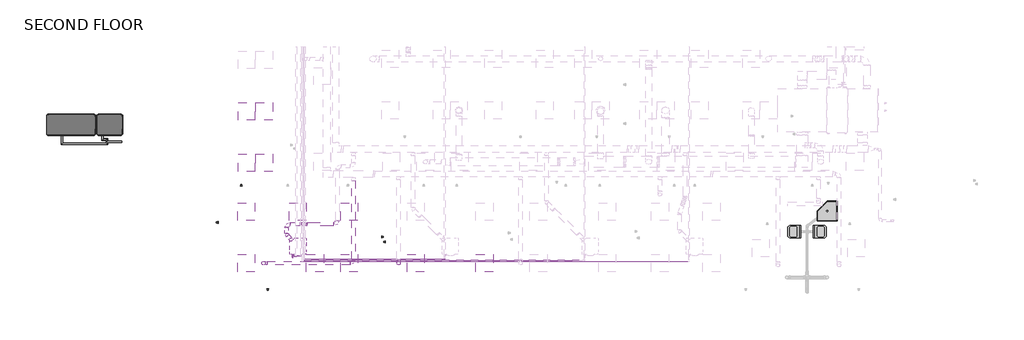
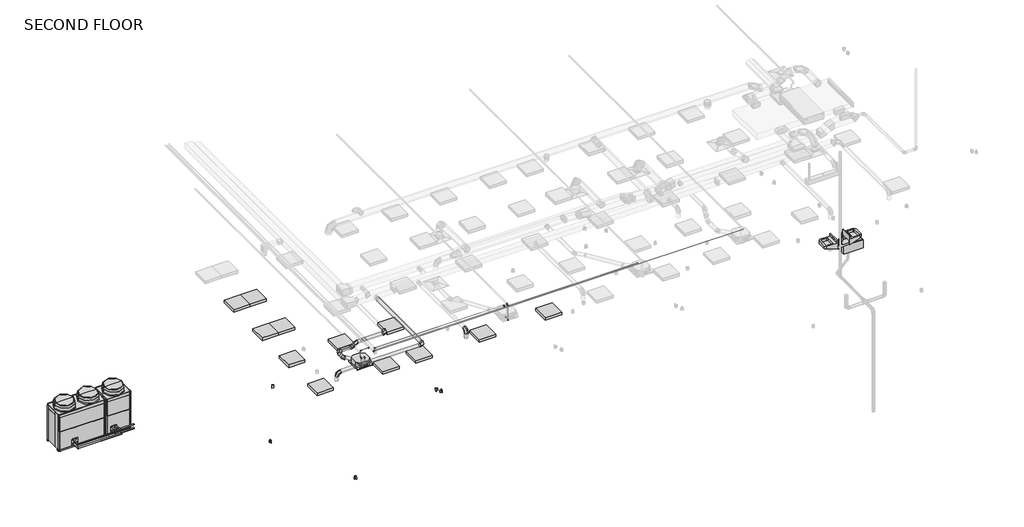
# One storey, part 1 of 12: 16 pipe fittings, 15 pipe segments, 12 light fixtures, 9 duct segments, 8 duct fittings, 7 proxies, 3 flow terminals.
"""IFC4 building model written with IfcOpenShell, lengths in millimetres."""

from ifc_helpers import new_model, si_unit, point, frame, frame_2d, origin, place, context, project, spatial, circle_curve, trimmed, segment, composite_curve, outline, extrude, transform, mapped, element, save
from components import mechanical_equipment_2d84379e, mechanical_equipment_f1262ded, mechanical_equipment_7c6ddfd4, mechanical_equipment_79fc2163, duplex_receptacle_countertop_10251bba, round_elbow_1_d_c80420c1, round_elbow_1_d_e3dc691b, flow_terminal_3ae34a69, flow_terminal_3fd0b982, troffer_corner_insert_2x2_3lamp_e67c7f8f, elbow_generic_standard_c06ac706, elbow_generic_standard_a088f956

model = new_model("IFC4")

# Units and contexts
model_context = context("Model", 3, world=origin())
ifc_project = project(units=[si_unit("LENGTHUNIT", "METRE", prefix="MILLI")], contexts=[model_context])

# Site, building, storey
site = spatial("IfcSite", under=ifc_project)
building = spatial("IfcBuilding", under=site)
storey = spatial("IfcBuildingStorey", under=building, Name="SECOND FLOOR", Elevation=34544.0)

# Proxies
placement = place(None, origin())
mechanical_equipment_shape = mechanical_equipment_2d84379e(model_context)
element("IfcBuildingElementProxy", 1, Name="PLFY-P-NCMU-E_4-way_24x24 : PLFY-P12NCMU-E", ObjectType="PLFY-P-NCMU-E_4-way_24x24 : PLFY-P12NCMU-E", at=placement, inside=storey, context=model_context, shape_type="MappedRepresentation", body=[
    mapped(mechanical_equipment_shape, transform((-7369.1729607, -5508.0657082, 37287.2), x_axis=(-1.0, 0.0, 0.0), y_axis=(0.0, 1.0, 0.0), z_axis=(0.0, 0.0, -1.0))),
])
mechanical_equipment_2_shape = mechanical_equipment_f1262ded(model_context)
mechanical_equipment_3_shape = mechanical_equipment_7c6ddfd4(model_context)
mechanical_equipment_4_shape = mechanical_equipment_79fc2163(model_context)
element("IfcBuildingElementProxy", 2, Name="PURY-P168-288_YSJMU_Heat_Recovery_460V : PURY-P192YSJMU-A(-BS)_460V", ObjectType="PURY-P168-288_YSJMU_Heat_Recovery_460V : PURY-P192YSJMU-A(-BS)_460V", at=placement, inside=storey, context=model_context, shape_type="MappedRepresentation", body=[
    mapped(mechanical_equipment_2_shape, transform((-15542.2584607, -1258.9304995, 34544.0), x_axis=(1.0, 0.0, 0.0), y_axis=(0.0, 1.0, 0.0), z_axis=(0.0, 0.0, 1.0))),
    mapped(mechanical_equipment_3_shape, transform((-15542.2584607, -1258.9304995, 34544.0), x_axis=(1.0, 0.0, 0.0), y_axis=(0.0, 1.0, 0.0), z_axis=(0.0, 0.0, 1.0))),
    mapped(mechanical_equipment_4_shape, transform((-15542.2584607, -1258.9304995, 34544.0), x_axis=(1.0, 0.0, 0.0), y_axis=(0.0, 1.0, 0.0), z_axis=(0.0, 0.0, 1.0))),
])
duplex_receptacle_countertop_shape = duplex_receptacle_countertop_10251bba(model_context)
element("IfcBuildingElementProxy", 3, Name="Duplex Receptacle : Countertop", ObjectType="Duplex Receptacle : Countertop", at=placement, inside=storey, context=model_context, shape_type="MappedRepresentation", body=[
    mapped(duplex_receptacle_countertop_shape, transform((-9384.920368, -3437.5304995, 35763.2), x_axis=(1.0, 0.0, 0.0), y_axis=(0.0, 0.0, 1.0), z_axis=(0.0, -1.0, 0.0))),
])
element("IfcBuildingElementProxy", 4, Name="Duplex Receptacle : Standard", ObjectType="Duplex Receptacle : Standard", at=placement, inside=storey, context=model_context, shape_type="MappedRepresentation", body=[
    mapped(duplex_receptacle_countertop_shape, transform((-10209.8454607, -4733.9575516, 34696.4), x_axis=(0.0, 1.0, 0.0), y_axis=(0.0, 0.0, 1.0), z_axis=(1.0, 0.0, 0.0))),
])
element("IfcBuildingElementProxy", 5, Name="Duplex Receptacle : Standard", ObjectType="Duplex Receptacle : Standard", at=placement, inside=storey, context=model_context, shape_type="MappedRepresentation", body=[
    mapped(duplex_receptacle_countertop_shape, transform((-4398.3829607, -5253.5079794, 35001.2), x_axis=(0.0, -1.0, 0.0), y_axis=(0.0, 0.0, 1.0), z_axis=(-1.0, 0.0, 0.0))),
])
element("IfcBuildingElementProxy", 6, Name="Duplex Receptacle : Standard", ObjectType="Duplex Receptacle : Standard", at=placement, inside=storey, context=model_context, shape_type="MappedRepresentation", body=[
    mapped(duplex_receptacle_countertop_shape, transform((-8437.8475796, -7095.1304995, 34086.8), x_axis=(-1.0, 0.0, 0.0), y_axis=(0.0, 0.0, 1.0), z_axis=(0.0, 1.0, 0.0))),
])
element("IfcBuildingElementProxy", 7, Name="Duplex Receptacle : Standard", ObjectType="Duplex Receptacle : Standard", at=placement, inside=storey, context=model_context, shape_type="MappedRepresentation", body=[
    mapped(duplex_receptacle_countertop_shape, transform((-4274.5579607, -5421.1008591, 35001.2), x_axis=(0.0, 1.0, 0.0), y_axis=(0.0, 0.0, 1.0), z_axis=(1.0, 0.0, 0.0))),
])

# Duct fittings
round_elbow_1_d_shape = round_elbow_1_d_c80420c1(model_context)
element("IfcDuctFitting", 8, ObjectType="Round Elbow : 1 D", at=placement, inside=storey, context=model_context, shape_type="MappedRepresentation", body=[
    mapped(round_elbow_1_d_shape, transform((-8593.9292107, -6180.7304995, 37693.6), x_axis=(0.0, 0.0, 1.0), y_axis=(1.0, 0.0, 0.0), z_axis=(0.0, 1.0, 0.0))),
])
element("IfcDuctFitting", 9, ObjectType="Round Elbow : 1 D", at=placement, inside=storey, context=model_context, shape_type="MappedRepresentation", body=[
    mapped(round_elbow_1_d_shape, transform((-5393.5292107, -6180.7304995, 37693.6), x_axis=(1.0, 0.0, 0.0), y_axis=(0.0, 1.0, 0.0), z_axis=(0.0, 0.0, 1.0))),
])
element("IfcDuctFitting", 10, ObjectType="Round Elbow : 1 D", at=placement, inside=storey, context=model_context, shape_type="MappedRepresentation", body=[
    mapped(round_elbow_1_d_shape, transform((-3798.8854607, -6180.7304995, 37693.6), x_axis=(0.0, 0.0, 1.0), y_axis=(0.0, 1.0, 0.0), z_axis=(-1.0, 0.0, 0.0))),
])
element("IfcDuctFitting", 11, ObjectType="Round Elbow : 1 D", at=placement, inside=storey, context=model_context, shape_type="MappedRepresentation", body=[
    mapped(round_elbow_1_d_shape, transform((-7773.6349734, -4791.2247368, 37381.259375), x_axis=(-1.0, 0.0, 0.0), y_axis=(0.0, -1.0, 0.0), z_axis=(0.0, 0.0, 1.0))),
])
element("IfcDuctFitting", 12, ObjectType="Round Elbow : 1 D", at=placement, inside=storey, context=model_context, shape_type="MappedRepresentation", body=[
    mapped(round_elbow_1_d_shape, transform((-5970.2349734, -4791.2247368, 37515.8), x_axis=(1.0, 0.0, 0.0), y_axis=(0.0, 1.0, 0.0), z_axis=(0.0, 0.0, 1.0))),
])
round_elbow_1_d_2_shape = round_elbow_1_d_e3dc691b(model_context)
element("IfcDuctFitting", 13, ObjectType="Round Elbow : 1 D", at=placement, inside=storey, context=model_context, shape_type="MappedRepresentation", body=[
    mapped(round_elbow_1_d_2_shape, transform((-7773.6349734, -5172.2247368, 37381.2593782), x_axis=(0.0, -1.0, 0.0), y_axis=(0.9999999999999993, 0.0, 3.563833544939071e-08), z_axis=(-3.563833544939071e-08, 0.0, 0.9999999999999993))),
])
element("IfcDuctFitting", 14, ObjectType="Round Elbow : 1 D", at=placement, inside=storey, context=model_context, shape_type="MappedRepresentation", body=[
    mapped(round_elbow_1_d_2_shape, transform((-7236.4646609, -4791.2247368, 37381.259375), x_axis=(1.0, 0.0, 0.0), y_axis=(0.0, 0.0, 1.0), z_axis=(0.0, -1.0, 0.0))),
])
element("IfcDuctFitting", 15, ObjectType="Round Elbow : 1 D", at=placement, inside=storey, context=model_context, shape_type="MappedRepresentation", body=[
    mapped(round_elbow_1_d_2_shape, transform((-7101.9240359, -4791.2247368, 37515.8), x_axis=(0.7071067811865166, 0.0, 0.7071067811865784), y_axis=(0.7071067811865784, 0.0, -0.7071067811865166), z_axis=(0.0, 1.0, 0.0))),
])

# Duct segments
element("IfcDuctSegment", 16, ObjectType="Taps / Short Radius", at=placement, inside=storey, context=model_context, shape_type="SweptSolid", body=[
    extrude(outline(composite_curve([segment(trimmed(circle_curve(frame_2d((-6180.7304995, 37693.6)), 63.5), [point((-6244.2304995, 37693.6))], [point((-6180.7304995, 37757.1))], False, "CARTESIAN"), True, "CONTINUOUS"), segment(trimmed(circle_curve(frame_2d((-6180.7304995, 37693.6)), 63.5), [point((-6180.7304995, 37757.1))], [point((-6117.2304995, 37693.6))], False, "CARTESIAN"), True, "CONTINUOUS"), segment(trimmed(circle_curve(frame_2d((-6180.7304995, 37693.6)), 63.5), [point((-6117.2304995, 37693.6))], [point((-6180.7304995, 37630.1))], False, "CARTESIAN"), True, "CONTINUOUS"), segment(trimmed(circle_curve(frame_2d((-6180.7304995, 37693.6)), 63.5), [point((-6180.7304995, 37630.1))], [point((-6244.2304995, 37693.6))], False, "CARTESIAN"), True, "CONTINUOUS")], self_intersect=False)), frame((-8466.9292107, 0.0, 0.0), z_axis=(1.0, 0.0, 0.0), x_axis=(0.0, 1.0, 0.0)), (0.0, 0.0, 1.0), 2946.4),
])
element("IfcDuctSegment", 17, ObjectType="Taps / Short Radius", at=placement, inside=storey, context=model_context, shape_type="SweptSolid", body=[
    extrude(outline(composite_curve([segment(trimmed(circle_curve(frame_2d((-8593.9292107, -6180.7304995)), 63.5), [point((-8593.9292107, -6244.2304995))], [point((-8657.4292107, -6180.7304995))], False, "CARTESIAN"), True, "CONTINUOUS"), segment(trimmed(circle_curve(frame_2d((-8593.9292107, -6180.7304995)), 63.5), [point((-8657.4292107, -6180.7304995))], [point((-8593.9292107, -6117.2304995))], False, "CARTESIAN"), True, "CONTINUOUS"), segment(trimmed(circle_curve(frame_2d((-8593.9292107, -6180.7304995)), 63.5), [point((-8593.9292107, -6117.2304995))], [point((-8530.4292107, -6180.7304995))], False, "CARTESIAN"), True, "CONTINUOUS"), segment(trimmed(circle_curve(frame_2d((-8593.9292107, -6180.7304995)), 63.5), [point((-8530.4292107, -6180.7304995))], [point((-8593.9292107, -6244.2304995))], False, "CARTESIAN"), True, "CONTINUOUS")], self_intersect=False)), frame((0.0, 0.0, 37388.8), z_axis=(0.0, 0.0, 1.0), x_axis=(1.0, 0.0, 0.0)), (0.0, 0.0, 1.0), 177.8),
])
element("IfcDuctSegment", 18, ObjectType="Taps / Short Radius", at=placement, inside=storey, context=model_context, shape_type="SweptSolid", body=[
    extrude(outline(composite_curve([segment(trimmed(circle_curve(frame_2d((37693.6, -5393.5292107)), 63.5), [point((37693.6, -5457.0292107))], [point((37630.1, -5393.5292107))], False, "CARTESIAN"), True, "CONTINUOUS"), segment(trimmed(circle_curve(frame_2d((37693.6, -5393.5292107)), 63.5), [point((37630.1, -5393.5292107))], [point((37693.6, -5330.0292107))], False, "CARTESIAN"), True, "CONTINUOUS"), segment(trimmed(circle_curve(frame_2d((37693.6, -5393.5292107)), 63.5), [point((37693.6, -5330.0292107))], [point((37757.1, -5393.5292107))], False, "CARTESIAN"), True, "CONTINUOUS"), segment(trimmed(circle_curve(frame_2d((37693.6, -5393.5292107)), 63.5), [point((37757.1, -5393.5292107))], [point((37693.6, -5457.0292107))], False, "CARTESIAN"), True, "CONTINUOUS")], self_intersect=False)), frame((0.0, -6053.7304995, 0.0), z_axis=(0.0, 1.0, 0.0), x_axis=(0.0, 0.0, 1.0)), (0.0, 0.0, 1.0), 2814.8598327),
])
element("IfcDuctSegment", 19, ObjectType="Taps / Short Radius", at=placement, inside=storey, context=model_context, shape_type="SweptSolid", body=[
    extrude(outline(composite_curve([segment(trimmed(circle_curve(frame_2d((-3798.8854607, -6180.7304995)), 63.5), [point((-3735.3854607, -6180.7304995))], [point((-3798.8854607, -6244.2304995))], False, "CARTESIAN"), True, "CONTINUOUS"), segment(trimmed(circle_curve(frame_2d((-3798.8854607, -6180.7304995)), 63.5), [point((-3798.8854607, -6244.2304995))], [point((-3862.3854607, -6180.7304995))], False, "CARTESIAN"), True, "CONTINUOUS"), segment(trimmed(circle_curve(frame_2d((-3798.8854607, -6180.7304995)), 63.5), [point((-3862.3854607, -6180.7304995))], [point((-3798.8854607, -6117.2304995))], False, "CARTESIAN"), True, "CONTINUOUS"), segment(trimmed(circle_curve(frame_2d((-3798.8854607, -6180.7304995)), 63.5), [point((-3798.8854607, -6117.2304995))], [point((-3735.3854607, -6180.7304995))], False, "CARTESIAN"), True, "CONTINUOUS")], self_intersect=False)), frame((0.0, 0.0, 37388.8), z_axis=(0.0, 0.0, 1.0), x_axis=(1.0, 0.0, 0.0)), (0.0, 0.0, 1.0), 177.8),
])
element("IfcDuctSegment", 20, ObjectType="Taps / Short Radius", at=placement, inside=storey, context=model_context, shape_type="SweptSolid", body=[
    extrude(outline(composite_curve([segment(trimmed(circle_curve(frame_2d((0.0, 63.5)), 63.5), [point((63.5, 63.5))], [point((0.0, 0.0))], False, "CARTESIAN"), True, "CONTINUOUS"), segment(trimmed(circle_curve(frame_2d((0.0, 63.5)), 63.5), [point((0.0, 0.0))], [point((-63.5, 63.5))], False, "CARTESIAN"), True, "CONTINUOUS"), segment(trimmed(circle_curve(frame_2d((0.0, 63.5)), 63.5), [point((-63.5, 63.5))], [point((0.0, 127.0))], False, "CARTESIAN"), True, "CONTINUOUS"), segment(trimmed(circle_curve(frame_2d((0.0, 63.5)), 63.5), [point((0.0, 127.0))], [point((63.5, 63.5))], False, "CARTESIAN"), True, "CONTINUOUS")], self_intersect=False)), frame((-7576.0693388, -5369.7903714, 37444.7593852), z_axis=(-0.7071067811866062, 0.707106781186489, 0.0), x_axis=(0.707106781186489, 0.7071067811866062, 0.0)), (0.0, 0.0, 1.0), 226.7948776),
])
element("IfcDuctSegment", 21, ObjectType="Taps / Short Radius", at=placement, inside=storey, context=model_context, shape_type="SweptSolid", body=[
    extrude(outline(composite_curve([segment(trimmed(circle_curve(frame_2d((37381.2593782, -7773.6349734)), 63.5), [point((37381.2593782, -7710.1349734))], [point((37444.7593782, -7773.6349734))], False, "CARTESIAN"), True, "CONTINUOUS"), segment(trimmed(circle_curve(frame_2d((37381.2593782, -7773.6349734)), 63.5), [point((37444.7593782, -7773.6349734))], [point((37381.2593782, -7837.1349734))], False, "CARTESIAN"), True, "CONTINUOUS"), segment(trimmed(circle_curve(frame_2d((37381.2593782, -7773.6349734)), 63.5), [point((37381.2593782, -7837.1349734))], [point((37317.7593782, -7773.6349734))], False, "CARTESIAN"), True, "CONTINUOUS"), segment(trimmed(circle_curve(frame_2d((37381.2593782, -7773.6349734)), 63.5), [point((37317.7593782, -7773.6349734))], [point((37381.2593782, -7710.1349734))], False, "CARTESIAN"), True, "CONTINUOUS")], self_intersect=False)), frame((0.0, -5119.6196143, 0.0), z_axis=(0.0, 1.0, 0.0), x_axis=(0.0, 0.0, 1.0)), (0.0, 0.0, 1.0), 201.3948776),
])
element("IfcDuctSegment", 22, ObjectType="Taps / Short Radius", at=placement, inside=storey, context=model_context, shape_type="SweptSolid", body=[
    extrude(outline(composite_curve([segment(trimmed(circle_curve(frame_2d((-4791.2247368, 37381.259375)), 63.5), [point((-4854.7247368, 37381.259375))], [point((-4791.2247368, 37444.759375))], False, "CARTESIAN"), True, "CONTINUOUS"), segment(trimmed(circle_curve(frame_2d((-4791.2247368, 37381.259375)), 63.5), [point((-4791.2247368, 37444.759375))], [point((-4727.7247368, 37381.259375))], False, "CARTESIAN"), True, "CONTINUOUS"), segment(trimmed(circle_curve(frame_2d((-4791.2247368, 37381.259375)), 63.5), [point((-4727.7247368, 37381.259375))], [point((-4791.2247368, 37317.759375))], False, "CARTESIAN"), True, "CONTINUOUS"), segment(trimmed(circle_curve(frame_2d((-4791.2247368, 37381.259375)), 63.5), [point((-4791.2247368, 37317.759375))], [point((-4854.7247368, 37381.259375))], False, "CARTESIAN"), True, "CONTINUOUS")], self_intersect=False)), frame((-7646.6349734, 0.0, 0.0), z_axis=(1.0, 0.0, 0.0), x_axis=(0.0, 1.0, 0.0)), (0.0, 0.0, 1.0), 357.5651901),
])
element("IfcDuctSegment", 23, ObjectType="Taps / Short Radius", at=placement, inside=storey, context=model_context, shape_type="SweptSolid", body=[
    extrude(outline(composite_curve([segment(trimmed(circle_curve(frame_2d((-4791.2247368, 37515.8)), 63.5), [point((-4854.7247368, 37515.8))], [point((-4791.2247368, 37579.3))], False, "CARTESIAN"), True, "CONTINUOUS"), segment(trimmed(circle_curve(frame_2d((-4791.2247368, 37515.8)), 63.5), [point((-4791.2247368, 37579.3))], [point((-4727.7247368, 37515.8))], False, "CARTESIAN"), True, "CONTINUOUS"), segment(trimmed(circle_curve(frame_2d((-4791.2247368, 37515.8)), 63.5), [point((-4727.7247368, 37515.8))], [point((-4791.2247368, 37452.3))], False, "CARTESIAN"), True, "CONTINUOUS"), segment(trimmed(circle_curve(frame_2d((-4791.2247368, 37515.8)), 63.5), [point((-4791.2247368, 37452.3))], [point((-4854.7247368, 37515.8))], False, "CARTESIAN"), True, "CONTINUOUS")], self_intersect=False)), frame((-7049.3189135, 0.0, 0.0), z_axis=(1.0, 0.0, 0.0), x_axis=(0.0, 1.0, 0.0)), (0.0, 0.0, 1.0), 952.0839401),
])
element("IfcDuctSegment", 24, ObjectType="Taps / Short Radius", at=placement, inside=storey, context=model_context, shape_type="SweptSolid", body=[
    extrude(outline(composite_curve([segment(trimmed(circle_curve(frame_2d((0.0, 63.5)), 63.5), [point((0.0, 0.0))], [point((-63.5, 63.5))], False, "CARTESIAN"), True, "CONTINUOUS"), segment(trimmed(circle_curve(frame_2d((0.0, 63.5)), 63.5), [point((-63.5, 63.5))], [point((0.0, 127.0))], False, "CARTESIAN"), True, "CONTINUOUS"), segment(trimmed(circle_curve(frame_2d((0.0, 63.5)), 63.5), [point((0.0, 127.0))], [point((63.5, 63.5))], False, "CARTESIAN"), True, "CONTINUOUS"), segment(trimmed(circle_curve(frame_2d((0.0, 63.5)), 63.5), [point((63.5, 63.5))], [point((0.0, 0.0))], False, "CARTESIAN"), True, "CONTINUOUS")], self_intersect=False)), frame((-7199.2672221, -4854.7247368, 37418.4568138), z_axis=(0.7071067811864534, 0.0, 0.7071067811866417), x_axis=(0.7071067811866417, 0.0, -0.7071067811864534)), (0.0, 0.0, 1.0), 85.0589317),
])

# Flow terminals
flow_terminal_shape = flow_terminal_3ae34a69(model_context)
element("IfcFlowTerminal", 25, ObjectType="Lavatory_Commercial-Willoughby-ES-1015-HC : Lavatory_Commercial-Willoughby-ES-1015-HC", at=placement, inside=storey, context=model_context, shape_type="MappedRepresentation", body=[
    mapped(flow_terminal_shape, transform((10465.7545393, -5063.1304995, 35458.4), x_axis=(0.0, -1.0, 0.0), y_axis=(0.0, 0.0, 1.0), z_axis=(-1.0, 0.0, 0.0))),
])
element("IfcFlowTerminal", 26, ObjectType="Lavatory_Commercial-Willoughby-ES-1015-HC : Lavatory_Commercial-Willoughby-ES-1015-HC", at=placement, inside=storey, context=model_context, shape_type="MappedRepresentation", body=[
    mapped(flow_terminal_shape, transform((10919.7299299, -5063.1304995, 35458.4), x_axis=(0.0, 1.0, 0.0), y_axis=(0.0, 0.0, 1.0), z_axis=(1.0, 0.0, 0.0))),
])
flow_terminal_2_shape = flow_terminal_3fd0b982(model_context)
element("IfcFlowTerminal", 27, ObjectType="Sink - Mop : 28\"x28\"", at=placement, inside=storey, context=model_context, shape_type="MappedRepresentation", body=[
    mapped(flow_terminal_2_shape, transform((11761.1049299, -4685.3054995, 34544.0), x_axis=(-1.0, 0.0, 0.0), y_axis=(0.0, -1.0, 0.0), z_axis=(0.0, 0.0, 1.0))),
])

# Light fixtures
troffer_corner_insert_2x2_3lamp_shape = troffer_corner_insert_2x2_3lamp_e67c7f8f(model_context)
element("IfcLightFixture", 28, ObjectType="Troffer Corner Insert : 2x2 3Lamp", at=placement, inside=storey, context=model_context, shape_type="MappedRepresentation", body=[
    mapped(troffer_corner_insert_2x2_3lamp_shape, transform((-3189.2854607, -6180.7304995, 34848.8), x_axis=(1.0, 0.0, 0.0), y_axis=(0.0, 1.0, 0.0), z_axis=(0.0, 0.0, 1.0))),
])
element("IfcLightFixture", 29, ObjectType="Troffer Corner Insert : 2x2 3Lamp", at=placement, inside=storey, context=model_context, shape_type="MappedRepresentation", body=[
    mapped(troffer_corner_insert_2x2_3lamp_shape, transform((-750.8854607, -6180.7304995, 34848.8), x_axis=(1.0, 0.0, 0.0), y_axis=(0.0, 1.0, 0.0), z_axis=(0.0, 0.0, 1.0))),
])
element("IfcLightFixture", 30, ObjectType="Troffer Corner Insert : 2x2 3Lamp", at=placement, inside=storey, context=model_context, shape_type="MappedRepresentation", body=[
    mapped(troffer_corner_insert_2x2_3lamp_shape, transform((-9203.5292107, -4351.9304995, 34848.8), x_axis=(1.0, 0.0, 0.0), y_axis=(0.0, 1.0, 0.0), z_axis=(0.0, 0.0, 1.0))),
])
element("IfcLightFixture", 31, ObjectType="Troffer Corner Insert : 2x2 3Lamp", at=placement, inside=storey, context=model_context, shape_type="MappedRepresentation", body=[
    mapped(troffer_corner_insert_2x2_3lamp_shape, transform((-9203.5292107, -6180.7304995, 34848.8), x_axis=(1.0, 0.0, 0.0), y_axis=(0.0, 1.0, 0.0), z_axis=(0.0, 0.0, 1.0))),
])
element("IfcLightFixture", 32, ObjectType="Troffer Corner Insert : 2x2 3Lamp", at=placement, inside=storey, context=model_context, shape_type="MappedRepresentation", body=[
    mapped(troffer_corner_insert_2x2_3lamp_shape, transform((-6765.1292107, -6180.7304995, 34848.8), x_axis=(1.0, 0.0, 0.0), y_axis=(0.0, 1.0, 0.0), z_axis=(0.0, 0.0, 1.0))),
])
element("IfcLightFixture", 33, ObjectType="Troffer Corner Insert : 2x2 3Lamp", at=placement, inside=storey, context=model_context, shape_type="MappedRepresentation", body=[
    mapped(troffer_corner_insert_2x2_3lamp_shape, transform((-7374.7292107, -4351.9304995, 34848.8), x_axis=(1.0, 0.0, 0.0), y_axis=(0.0, 1.0, 0.0), z_axis=(0.0, 0.0, 1.0))),
])
element("IfcLightFixture", 34, ObjectType="Troffer Corner Insert : 2x2 3Lamp", at=placement, inside=storey, context=model_context, shape_type="MappedRepresentation", body=[
    mapped(troffer_corner_insert_2x2_3lamp_shape, transform((-5545.9292107, -6180.7304995, 34848.8), x_axis=(1.0, 0.0, 0.0), y_axis=(0.0, 1.0, 0.0), z_axis=(0.0, 0.0, 1.0))),
])
element("IfcLightFixture", 35, ObjectType="Troffer Corner Insert : 2x2 3Lamp", at=placement, inside=storey, context=model_context, shape_type="MappedRepresentation", body=[
    mapped(troffer_corner_insert_2x2_3lamp_shape, transform((-5545.9292107, -4351.9304995, 34848.8), x_axis=(1.0, 0.0, 0.0), y_axis=(0.0, 1.0, 0.0), z_axis=(0.0, 0.0, 1.0))),
])
element("IfcLightFixture", 36, ObjectType="Troffer Corner Insert : 2x2 3Lamp", at=placement, inside=storey, context=model_context, shape_type="MappedRepresentation", body=[
    mapped(troffer_corner_insert_2x2_3lamp_shape, transform((-9184.3204607, -787.9929995, 34848.8), x_axis=(1.0, 0.0, 0.0), y_axis=(0.0, 1.0, 0.0), z_axis=(0.0, 0.0, 1.0))),
])
element("IfcLightFixture", 37, ObjectType="Troffer Corner Insert : 2x2 3Lamp", at=placement, inside=storey, context=model_context, shape_type="MappedRepresentation", body=[
    mapped(troffer_corner_insert_2x2_3lamp_shape, transform((-8574.7204607, -787.9929995, 34848.8), x_axis=(1.0, 0.0, 0.0), y_axis=(0.0, 1.0, 0.0), z_axis=(0.0, 0.0, 1.0))),
])
element("IfcLightFixture", 38, ObjectType="Troffer Corner Insert : 2x2 3Lamp", at=placement, inside=storey, context=model_context, shape_type="MappedRepresentation", body=[
    mapped(troffer_corner_insert_2x2_3lamp_shape, transform((-9184.3204607, -2616.7929995, 34848.8), x_axis=(1.0, 0.0, 0.0), y_axis=(0.0, 1.0, 0.0), z_axis=(0.0, 0.0, 1.0))),
])
element("IfcLightFixture", 39, ObjectType="Troffer Corner Insert : 2x2 3Lamp", at=placement, inside=storey, context=model_context, shape_type="MappedRepresentation", body=[
    mapped(troffer_corner_insert_2x2_3lamp_shape, transform((-8574.7204607, -2616.7929995, 34848.8), x_axis=(1.0, 0.0, 0.0), y_axis=(0.0, 1.0, 0.0), z_axis=(0.0, 0.0, 1.0))),
])

# Pipe fittings
elbow_generic_standard_shape = elbow_generic_standard_c06ac706(model_context)
element("IfcPipeFitting", 40, ObjectType="Elbow - Generic : Standard", at=placement, inside=storey, context=model_context, shape_type="MappedRepresentation", body=[
    mapped(elbow_generic_standard_shape, transform((-2162.9667107, -5960.0791744, 37998.4), x_axis=(0.0, 0.0, 1.0), y_axis=(0.0, 1.0, 0.0), z_axis=(-1.0, 0.0, 0.0))),
])
element("IfcPipeFitting", 41, ObjectType="Elbow - Generic : Standard", at=placement, inside=storey, context=model_context, shape_type="MappedRepresentation", body=[
    mapped(elbow_generic_standard_shape, transform((-7430.4504607, -5943.4892377, 37744.4), x_axis=(0.0, -1.0, 0.0), y_axis=(0.0, 0.0, -1.0), z_axis=(1.0, 0.0, 0.0))),
])
element("IfcPipeFitting", 42, ObjectType="Elbow - Generic : Standard", at=placement, inside=storey, context=model_context, shape_type="MappedRepresentation", body=[
    mapped(elbow_generic_standard_shape, transform((-7430.4504607, -5943.4892377, 37437.2187602), x_axis=(0.0, 0.0, -1.0), y_axis=(-1.0, 0.0, 0.0), z_axis=(0.0, 1.0, 0.0))),
])
element("IfcPipeFitting", 43, ObjectType="Elbow - Generic : Standard", at=placement, inside=storey, context=model_context, shape_type="MappedRepresentation", body=[
    mapped(elbow_generic_standard_shape, transform((-7567.6104607, -5943.4892377, 37437.2187602), x_axis=(0.0, -1.0, 0.0), y_axis=(1.0, 0.0, 0.0), z_axis=(0.0, 0.0, 1.0))),
])
elbow_generic_standard_2_shape = elbow_generic_standard_a088f956(model_context)
element("IfcPipeFitting", 44, ObjectType="Elbow - Generic : Standard", at=placement, inside=storey, context=model_context, shape_type="MappedRepresentation", body=[
    mapped(elbow_generic_standard_2_shape, transform((-7570.7854607, -5931.4929995, 38049.2), x_axis=(0.0, 0.0, 1.0), y_axis=(1.0, 0.0, 0.0), z_axis=(0.0, 1.0, 0.0))),
])
element("IfcPipeFitting", 45, ObjectType="Elbow - Generic : Standard", at=placement, inside=storey, context=model_context, shape_type="MappedRepresentation", body=[
    mapped(elbow_generic_standard_2_shape, transform((-7265.9854607, -5931.4929995, 38049.2), x_axis=(1.0, 0.0, 0.0), y_axis=(0.0, 1.0, 0.0), z_axis=(0.0, 0.0, 1.0))),
])
element("IfcPipeFitting", 46, ObjectType="Elbow - Generic : Standard", at=placement, inside=storey, context=model_context, shape_type="MappedRepresentation", body=[
    mapped(elbow_generic_standard_2_shape, transform((-7215.1854607, -6134.6929995, 37998.4), x_axis=(0.0, -1.0, 0.0), y_axis=(1.0, 0.0, 0.0), z_axis=(0.0, 0.0, 1.0))),
])
element("IfcPipeFitting", 47, ObjectType="Elbow - Generic : Standard", at=placement, inside=storey, context=model_context, shape_type="MappedRepresentation", body=[
    mapped(elbow_generic_standard_2_shape, transform((-7164.3854607, -6083.8929995, 37998.4), x_axis=(0.0, -1.0, 0.0), y_axis=(1.0, 0.0, 0.0), z_axis=(0.0, 0.0, 1.0))),
])
element("IfcPipeFitting", 48, ObjectType="Elbow - Generic : Standard", at=placement, inside=storey, context=model_context, shape_type="MappedRepresentation", body=[
    mapped(elbow_generic_standard_2_shape, transform((-7113.5854607, -6033.0929995, 38049.2), x_axis=(0.0, -1.0, 0.0), y_axis=(1.0, 0.0, 0.0), z_axis=(0.0, 0.0, 1.0))),
])
element("IfcPipeFitting", 49, ObjectType="Elbow - Generic : Standard", at=placement, inside=storey, context=model_context, shape_type="MappedRepresentation", body=[
    mapped(elbow_generic_standard_2_shape, transform((-2312.9854607, -6033.0929995, 38049.2), x_axis=(1.0, 0.0, 0.0), y_axis=(0.0, 0.0, -1.0), z_axis=(0.0, 1.0, 0.0))),
])
element("IfcPipeFitting", 50, ObjectType="Elbow - Generic : Standard", at=placement, inside=storey, context=model_context, shape_type="MappedRepresentation", body=[
    mapped(elbow_generic_standard_2_shape, transform((-2312.9854607, -6033.0929995, 37995.2250102), x_axis=(0.0, 0.0, -1.0), y_axis=(1.0, 0.0, 0.0), z_axis=(0.0, -1.0, 0.0))),
])
element("IfcPipeFitting", 51, ObjectType="Elbow - Generic : Standard", at=placement, inside=storey, context=model_context, shape_type="MappedRepresentation", body=[
    mapped(elbow_generic_standard_2_shape, transform((-2166.1417107, -6033.0929995, 37995.2250102), x_axis=(1.0, 0.0, 0.0), y_axis=(0.0, 0.0, -1.0), z_axis=(0.0, 1.0, 0.0))),
])
element("IfcPipeFitting", 52, ObjectType="Elbow - Generic : Standard", at=placement, inside=storey, context=model_context, shape_type="MappedRepresentation", body=[
    mapped(elbow_generic_standard_2_shape, transform((-2166.1417107, -6033.0929995, 37407.8500102), x_axis=(0.0, -1.0, 0.0), y_axis=(0.0, 0.0, 1.0), z_axis=(-1.0, 0.0, 0.0))),
])
element("IfcPipeFitting", 53, ObjectType="Elbow - Generic : Standard", at=placement, inside=storey, context=model_context, shape_type="MappedRepresentation", body=[
    mapped(elbow_generic_standard_2_shape, transform((-7570.7854607, -5988.6429995, 37407.8500102), x_axis=(0.0, -1.0, 0.0), y_axis=(0.0, 0.0, 1.0), z_axis=(-1.0, 0.0, 0.0))),
])
element("IfcPipeFitting", 54, ObjectType="Elbow - Generic : Standard", at=placement, inside=storey, context=model_context, shape_type="MappedRepresentation", body=[
    mapped(elbow_generic_standard_2_shape, transform((-7570.7854607, -5988.6429995, 37788.8500102), x_axis=(0.0, 0.0, 1.0), y_axis=(0.0, 1.0, 0.0), z_axis=(-1.0, 0.0, 0.0))),
])
element("IfcPipeFitting", 55, ObjectType="Elbow - Generic : Standard", at=placement, inside=storey, context=model_context, shape_type="MappedRepresentation", body=[
    mapped(elbow_generic_standard_2_shape, transform((-7570.7854607, -5931.4929995, 37788.8500102), x_axis=(0.0, 1.0, 0.0), y_axis=(0.0, 0.0, 1.0), z_axis=(1.0, 0.0, 0.0))),
])

# Pipe segments
element("IfcPipeSegment", 56, ObjectType="Copper Tubing", at=placement, inside=storey, context=model_context, shape_type="SweptSolid", body=[
    extrude(outline(composite_curve([segment(trimmed(circle_curve(frame_2d((-5931.4929995, 38049.2)), 7.9375), [point((-5939.4304995, 38049.2))], [point((-5931.4929995, 38057.1375))], False, "CARTESIAN"), True, "CONTINUOUS"), segment(trimmed(circle_curve(frame_2d((-5931.4929995, 38049.2)), 7.9375), [point((-5931.4929995, 38057.1375))], [point((-5923.5554995, 38049.2))], False, "CARTESIAN"), True, "CONTINUOUS"), segment(trimmed(circle_curve(frame_2d((-5931.4929995, 38049.2)), 7.9375), [point((-5923.5554995, 38049.2))], [point((-5931.4929995, 38041.2625))], False, "CARTESIAN"), True, "CONTINUOUS"), segment(trimmed(circle_curve(frame_2d((-5931.4929995, 38049.2)), 7.9375), [point((-5931.4929995, 38041.2625))], [point((-5939.4304995, 38049.2))], False, "CARTESIAN"), True, "CONTINUOUS")], self_intersect=False)), frame((-7556.4979607, 0.0, 0.0), z_axis=(1.0, 0.0, 0.0), x_axis=(0.0, 1.0, 0.0)), (0.0, 0.0, 1.0), 276.225),
])
element("IfcPipeSegment", 57, ObjectType="Copper Tubing", at=placement, inside=storey, context=model_context, shape_type="SweptSolid", body=[
    extrude(outline(composite_curve([segment(trimmed(circle_curve(frame_2d((-6083.8929995, 37998.4)), 7.9375), [point((-6091.8304995, 37998.4))], [point((-6083.8929995, 38006.3375))], False, "CARTESIAN"), True, "CONTINUOUS"), segment(trimmed(circle_curve(frame_2d((-6083.8929995, 37998.4)), 7.9375), [point((-6083.8929995, 38006.3375))], [point((-6075.9554995, 37998.4))], False, "CARTESIAN"), True, "CONTINUOUS"), segment(trimmed(circle_curve(frame_2d((-6083.8929995, 37998.4)), 7.9375), [point((-6075.9554995, 37998.4))], [point((-6083.8929995, 37990.4625))], False, "CARTESIAN"), True, "CONTINUOUS"), segment(trimmed(circle_curve(frame_2d((-6083.8929995, 37998.4)), 7.9375), [point((-6083.8929995, 37990.4625))], [point((-6091.8304995, 37998.4))], False, "CARTESIAN"), True, "CONTINUOUS")], self_intersect=False)), frame((-7150.0979607, 0.0, 0.0), z_axis=(1.0, 0.0, 0.0), x_axis=(0.0, 1.0, 0.0)), (0.0, 0.0, 1.0), 9766.0434842),
])
element("IfcPipeSegment", 58, ObjectType="Copper Tubing", at=placement, inside=storey, context=model_context, shape_type="SweptSolid", body=[
    extrude(outline(composite_curve([segment(trimmed(circle_curve(frame_2d((-6033.0929995, 38049.2)), 7.9375), [point((-6041.0304995, 38049.2))], [point((-6033.0929995, 38057.1375))], False, "CARTESIAN"), True, "CONTINUOUS"), segment(trimmed(circle_curve(frame_2d((-6033.0929995, 38049.2)), 7.9375), [point((-6033.0929995, 38057.1375))], [point((-6025.1554995, 38049.2))], False, "CARTESIAN"), True, "CONTINUOUS"), segment(trimmed(circle_curve(frame_2d((-6033.0929995, 38049.2)), 7.9375), [point((-6025.1554995, 38049.2))], [point((-6033.0929995, 38041.2625))], False, "CARTESIAN"), True, "CONTINUOUS"), segment(trimmed(circle_curve(frame_2d((-6033.0929995, 38049.2)), 7.9375), [point((-6033.0929995, 38041.2625))], [point((-6041.0304995, 38049.2))], False, "CARTESIAN"), True, "CONTINUOUS")], self_intersect=False)), frame((-7099.2979607, 0.0, 0.0), z_axis=(1.0, 0.0, 0.0), x_axis=(0.0, 1.0, 0.0)), (0.0, 0.0, 1.0), 4772.025),
])
element("IfcPipeSegment", 59, ObjectType="Copper Tubing", at=placement, inside=storey, context=model_context, shape_type="SweptSolid", body=[
    extrude(outline(composite_curve([segment(trimmed(circle_curve(frame_2d((-6134.6929995, 37998.4)), 7.9375), [point((-6142.6304995, 37998.4))], [point((-6134.6929995, 38006.3375))], False, "CARTESIAN"), True, "CONTINUOUS"), segment(trimmed(circle_curve(frame_2d((-6134.6929995, 37998.4)), 7.9375), [point((-6134.6929995, 38006.3375))], [point((-6126.7554995, 37998.4))], False, "CARTESIAN"), True, "CONTINUOUS"), segment(trimmed(circle_curve(frame_2d((-6134.6929995, 37998.4)), 7.9375), [point((-6126.7554995, 37998.4))], [point((-6134.6929995, 37990.4625))], False, "CARTESIAN"), True, "CONTINUOUS"), segment(trimmed(circle_curve(frame_2d((-6134.6929995, 37998.4)), 7.9375), [point((-6134.6929995, 37990.4625))], [point((-6142.6304995, 37998.4))], False, "CARTESIAN"), True, "CONTINUOUS")], self_intersect=False)), frame((-7200.8979607, 0.0, 0.0), z_axis=(1.0, 0.0, 0.0), x_axis=(0.0, 1.0, 0.0)), (0.0, 0.0, 1.0), 13683.9325),
])
element("IfcPipeSegment", 60, ObjectType="Copper Tubing", at=placement, inside=storey, context=model_context, shape_type="SweptSolid", body=[
    extrude(outline(composite_curve([segment(trimmed(circle_curve(frame_2d((37437.2187602, -2162.9667107)), 14.2875), [point((37437.2187602, -2177.2542107))], [point((37422.9312602, -2162.9667107))], False, "CARTESIAN"), True, "CONTINUOUS"), segment(trimmed(circle_curve(frame_2d((37437.2187602, -2162.9667107)), 14.2875), [point((37422.9312602, -2162.9667107))], [point((37437.2187602, -2148.6792107))], False, "CARTESIAN"), True, "CONTINUOUS"), segment(trimmed(circle_curve(frame_2d((37437.2187602, -2162.9667107)), 14.2875), [point((37437.2187602, -2148.6792107))], [point((37451.5062602, -2162.9667107))], False, "CARTESIAN"), True, "CONTINUOUS"), segment(trimmed(circle_curve(frame_2d((37437.2187602, -2162.9667107)), 14.2875), [point((37451.5062602, -2162.9667107))], [point((37437.2187602, -2177.2542107))], False, "CARTESIAN"), True, "CONTINUOUS")], self_intersect=False)), frame((0.0, -5939.4416744, 0.0), z_axis=(0.0, 1.0, 0.0), x_axis=(0.0, 0.0, 1.0)), (0.0, 0.0, 1.0), 77.7986749),
])
element("IfcPipeSegment", 61, ObjectType="Copper Tubing", at=placement, inside=storey, context=model_context, shape_type="SweptSolid", body=[
    extrude(outline(composite_curve([segment(trimmed(circle_curve(frame_2d((-2166.1417107, -6033.0929995)), 7.9375), [point((-2158.2042107, -6033.0929995))], [point((-2166.1417107, -6041.0304995))], False, "CARTESIAN"), True, "CONTINUOUS"), segment(trimmed(circle_curve(frame_2d((-2166.1417107, -6033.0929995)), 7.9375), [point((-2166.1417107, -6041.0304995))], [point((-2174.0792107, -6033.0929995))], False, "CARTESIAN"), True, "CONTINUOUS"), segment(trimmed(circle_curve(frame_2d((-2166.1417107, -6033.0929995)), 7.9375), [point((-2174.0792107, -6033.0929995))], [point((-2166.1417107, -6025.1554995))], False, "CARTESIAN"), True, "CONTINUOUS"), segment(trimmed(circle_curve(frame_2d((-2166.1417107, -6033.0929995)), 7.9375), [point((-2166.1417107, -6025.1554995))], [point((-2158.2042107, -6033.0929995))], False, "CARTESIAN"), True, "CONTINUOUS")], self_intersect=False)), frame((0.0, 0.0, 37422.1375102), z_axis=(0.0, 0.0, 1.0), x_axis=(1.0, 0.0, 0.0)), (0.0, 0.0, 1.0), 558.7999999),
])
element("IfcPipeSegment", 62, ObjectType="Copper Tubing", at=placement, inside=storey, context=model_context, shape_type="SweptSolid", body=[
    extrude(outline(composite_curve([segment(trimmed(circle_curve(frame_2d((-2312.9854607, -6033.0929995)), 7.9375), [point((-2305.0479607, -6033.0929995))], [point((-2312.9854607, -6041.0304995))], False, "CARTESIAN"), True, "CONTINUOUS"), segment(trimmed(circle_curve(frame_2d((-2312.9854607, -6033.0929995)), 7.9375), [point((-2312.9854607, -6041.0304995))], [point((-2320.9229607, -6033.0929995))], False, "CARTESIAN"), True, "CONTINUOUS"), segment(trimmed(circle_curve(frame_2d((-2312.9854607, -6033.0929995)), 7.9375), [point((-2320.9229607, -6033.0929995))], [point((-2312.9854607, -6025.1554995))], False, "CARTESIAN"), True, "CONTINUOUS"), segment(trimmed(circle_curve(frame_2d((-2312.9854607, -6033.0929995)), 7.9375), [point((-2312.9854607, -6025.1554995))], [point((-2305.0479607, -6033.0929995))], False, "CARTESIAN"), True, "CONTINUOUS")], self_intersect=False)), frame((0.0, 0.0, 38009.5125102), z_axis=(0.0, 0.0, 1.0), x_axis=(1.0, 0.0, 0.0)), (0.0, 0.0, 1.0), 25.3999898),
])
element("IfcPipeSegment", 63, ObjectType="Copper Tubing", at=placement, inside=storey, context=model_context, shape_type="SweptSolid", body=[
    extrude(outline(composite_curve([segment(trimmed(circle_curve(frame_2d((-6033.0929995, 37995.2250102)), 7.9375), [point((-6041.0304995, 37995.2250102))], [point((-6033.0929995, 38003.1625102))], False, "CARTESIAN"), True, "CONTINUOUS"), segment(trimmed(circle_curve(frame_2d((-6033.0929995, 37995.2250102)), 7.9375), [point((-6033.0929995, 38003.1625102))], [point((-6025.1554995, 37995.2250102))], False, "CARTESIAN"), True, "CONTINUOUS"), segment(trimmed(circle_curve(frame_2d((-6033.0929995, 37995.2250102)), 7.9375), [point((-6025.1554995, 37995.2250102))], [point((-6033.0929995, 37987.2875102))], False, "CARTESIAN"), True, "CONTINUOUS"), segment(trimmed(circle_curve(frame_2d((-6033.0929995, 37995.2250102)), 7.9375), [point((-6033.0929995, 37987.2875102))], [point((-6041.0304995, 37995.2250102))], False, "CARTESIAN"), True, "CONTINUOUS")], self_intersect=False)), frame((-2298.6979607, 0.0, 0.0), z_axis=(1.0, 0.0, 0.0), x_axis=(0.0, 1.0, 0.0)), (0.0, 0.0, 1.0), 118.26875),
])
element("IfcPipeSegment", 64, ObjectType="Copper Tubing", at=placement, inside=storey, context=model_context, shape_type="SweptSolid", body=[
    extrude(outline(composite_curve([segment(trimmed(circle_curve(frame_2d((-7430.4504607, -5943.4892377)), 14.2875), [point((-7416.1629607, -5943.4892377))], [point((-7430.4504607, -5957.7767377))], False, "CARTESIAN"), True, "CONTINUOUS"), segment(trimmed(circle_curve(frame_2d((-7430.4504607, -5943.4892377)), 14.2875), [point((-7430.4504607, -5957.7767377))], [point((-7444.7379607, -5943.4892377))], False, "CARTESIAN"), True, "CONTINUOUS"), segment(trimmed(circle_curve(frame_2d((-7430.4504607, -5943.4892377)), 14.2875), [point((-7444.7379607, -5943.4892377))], [point((-7430.4504607, -5929.2017377))], False, "CARTESIAN"), True, "CONTINUOUS"), segment(trimmed(circle_curve(frame_2d((-7430.4504607, -5943.4892377)), 14.2875), [point((-7430.4504607, -5929.2017377))], [point((-7416.1629607, -5943.4892377))], False, "CARTESIAN"), True, "CONTINUOUS")], self_intersect=False)), frame((0.0, 0.0, 37457.8562602), z_axis=(0.0, 0.0, 1.0), x_axis=(1.0, 0.0, 0.0)), (0.0, 0.0, 1.0), 265.9062398),
])
element("IfcPipeSegment", 65, ObjectType="Copper Tubing", at=placement, inside=storey, context=model_context, shape_type="SweptSolid", body=[
    extrude(outline(composite_curve([segment(trimmed(circle_curve(frame_2d((37437.2187602, -7567.6104607)), 14.2875), [point((37437.2187602, -7553.3229607))], [point((37451.5062602, -7567.6104607))], False, "CARTESIAN"), True, "CONTINUOUS"), segment(trimmed(circle_curve(frame_2d((37437.2187602, -7567.6104607)), 14.2875), [point((37451.5062602, -7567.6104607))], [point((37437.2187602, -7581.8979607))], False, "CARTESIAN"), True, "CONTINUOUS"), segment(trimmed(circle_curve(frame_2d((37437.2187602, -7567.6104607)), 14.2875), [point((37437.2187602, -7581.8979607))], [point((37422.9312602, -7567.6104607))], False, "CARTESIAN"), True, "CONTINUOUS"), segment(trimmed(circle_curve(frame_2d((37437.2187602, -7567.6104607)), 14.2875), [point((37422.9312602, -7567.6104607))], [point((37437.2187602, -7553.3229607))], False, "CARTESIAN"), True, "CONTINUOUS")], self_intersect=False)), frame((0.0, -5922.8517377, 0.0), z_axis=(0.0, 1.0, 0.0), x_axis=(0.0, 0.0, 1.0)), (0.0, 0.0, 1.0), 61.2087383),
])
element("IfcPipeSegment", 66, ObjectType="Copper Tubing", at=placement, inside=storey, context=model_context, shape_type="SweptSolid", body=[
    extrude(outline(composite_curve([segment(trimmed(circle_curve(frame_2d((-5943.4892377, 37437.2187602)), 14.2875), [point((-5929.2017377, 37437.2187602))], [point((-5943.4892377, 37422.9312602))], False, "CARTESIAN"), True, "CONTINUOUS"), segment(trimmed(circle_curve(frame_2d((-5943.4892377, 37437.2187602)), 14.2875), [point((-5943.4892377, 37422.9312602))], [point((-5957.7767377, 37437.2187602))], False, "CARTESIAN"), True, "CONTINUOUS"), segment(trimmed(circle_curve(frame_2d((-5943.4892377, 37437.2187602)), 14.2875), [point((-5957.7767377, 37437.2187602))], [point((-5943.4892377, 37451.5062602))], False, "CARTESIAN"), True, "CONTINUOUS"), segment(trimmed(circle_curve(frame_2d((-5943.4892377, 37437.2187602)), 14.2875), [point((-5943.4892377, 37451.5062602))], [point((-5929.2017377, 37437.2187602))], False, "CARTESIAN"), True, "CONTINUOUS")], self_intersect=False)), frame((-7546.9729607, 0.0, 0.0), z_axis=(1.0, 0.0, 0.0), x_axis=(0.0, 1.0, 0.0)), (0.0, 0.0, 1.0), 95.885),
])
element("IfcPipeSegment", 67, ObjectType="Copper Tubing", at=placement, inside=storey, context=model_context, shape_type="SweptSolid", body=[
    extrude(outline(composite_curve([segment(trimmed(circle_curve(frame_2d((37407.8500102, -7570.7854607)), 7.9375), [point((37407.8500102, -7578.7229607))], [point((37399.9125102, -7570.7854607))], False, "CARTESIAN"), True, "CONTINUOUS"), segment(trimmed(circle_curve(frame_2d((37407.8500102, -7570.7854607)), 7.9375), [point((37399.9125102, -7570.7854607))], [point((37407.8500102, -7562.8479607))], False, "CARTESIAN"), True, "CONTINUOUS"), segment(trimmed(circle_curve(frame_2d((37407.8500102, -7570.7854607)), 7.9375), [point((37407.8500102, -7562.8479607))], [point((37415.7875102, -7570.7854607))], False, "CARTESIAN"), True, "CONTINUOUS"), segment(trimmed(circle_curve(frame_2d((37407.8500102, -7570.7854607)), 7.9375), [point((37415.7875102, -7570.7854607))], [point((37407.8500102, -7578.7229607))], False, "CARTESIAN"), True, "CONTINUOUS")], self_intersect=False)), frame((0.0, -5974.3554995, 0.0), z_axis=(0.0, 1.0, 0.0), x_axis=(0.0, 0.0, 1.0)), (0.0, 0.0, 1.0), 112.7125),
])
element("IfcPipeSegment", 68, ObjectType="Copper Tubing", at=placement, inside=storey, context=model_context, shape_type="SweptSolid", body=[
    extrude(outline(composite_curve([segment(trimmed(circle_curve(frame_2d((-7570.7854607, -5988.6429995)), 7.9375), [point((-7578.7229607, -5988.6429995))], [point((-7570.7854607, -5980.7054995))], False, "CARTESIAN"), True, "CONTINUOUS"), segment(trimmed(circle_curve(frame_2d((-7570.7854607, -5988.6429995)), 7.9375), [point((-7570.7854607, -5980.7054995))], [point((-7562.8479607, -5988.6429995))], False, "CARTESIAN"), True, "CONTINUOUS"), segment(trimmed(circle_curve(frame_2d((-7570.7854607, -5988.6429995)), 7.9375), [point((-7562.8479607, -5988.6429995))], [point((-7570.7854607, -5996.5804995))], False, "CARTESIAN"), True, "CONTINUOUS"), segment(trimmed(circle_curve(frame_2d((-7570.7854607, -5988.6429995)), 7.9375), [point((-7570.7854607, -5996.5804995))], [point((-7578.7229607, -5988.6429995))], False, "CARTESIAN"), True, "CONTINUOUS")], self_intersect=False)), frame((0.0, 0.0, 37422.1375102), z_axis=(0.0, 0.0, 1.0), x_axis=(1.0, 0.0, 0.0)), (0.0, 0.0, 1.0), 352.425),
])
element("IfcPipeSegment", 69, ObjectType="Copper Tubing", at=placement, inside=storey, context=model_context, shape_type="SweptSolid", body=[
    extrude(outline(composite_curve([segment(trimmed(circle_curve(frame_2d((37788.8500102, -7570.7854607)), 7.9375), [point((37788.8500102, -7562.8479607))], [point((37796.7875102, -7570.7854607))], False, "CARTESIAN"), True, "CONTINUOUS"), segment(trimmed(circle_curve(frame_2d((37788.8500102, -7570.7854607)), 7.9375), [point((37796.7875102, -7570.7854607))], [point((37788.8500102, -7578.7229607))], False, "CARTESIAN"), True, "CONTINUOUS"), segment(trimmed(circle_curve(frame_2d((37788.8500102, -7570.7854607)), 7.9375), [point((37788.8500102, -7578.7229607))], [point((37780.9125102, -7570.7854607))], False, "CARTESIAN"), True, "CONTINUOUS"), segment(trimmed(circle_curve(frame_2d((37788.8500102, -7570.7854607)), 7.9375), [point((37780.9125102, -7570.7854607))], [point((37788.8500102, -7562.8479607))], False, "CARTESIAN"), True, "CONTINUOUS")], self_intersect=False)), frame((0.0, -5974.3554995, 0.0), z_axis=(0.0, 1.0, 0.0), x_axis=(0.0, 0.0, 1.0)), (0.0, 0.0, 1.0), 28.575),
])
element("IfcPipeSegment", 70, ObjectType="Copper Tubing", at=placement, inside=storey, context=model_context, shape_type="SweptSolid", body=[
    extrude(outline(composite_curve([segment(trimmed(circle_curve(frame_2d((-7570.7854607, -5931.4929995)), 7.9375), [point((-7562.8479607, -5931.4929995))], [point((-7570.7854607, -5939.4304995))], False, "CARTESIAN"), True, "CONTINUOUS"), segment(trimmed(circle_curve(frame_2d((-7570.7854607, -5931.4929995)), 7.9375), [point((-7570.7854607, -5939.4304995))], [point((-7578.7229607, -5931.4929995))], False, "CARTESIAN"), True, "CONTINUOUS"), segment(trimmed(circle_curve(frame_2d((-7570.7854607, -5931.4929995)), 7.9375), [point((-7578.7229607, -5931.4929995))], [point((-7570.7854607, -5923.5554995))], False, "CARTESIAN"), True, "CONTINUOUS"), segment(trimmed(circle_curve(frame_2d((-7570.7854607, -5931.4929995)), 7.9375), [point((-7570.7854607, -5923.5554995))], [point((-7562.8479607, -5931.4929995))], False, "CARTESIAN"), True, "CONTINUOUS")], self_intersect=False)), frame((0.0, 0.0, 37803.1375102), z_axis=(0.0, 0.0, 1.0), x_axis=(1.0, 0.0, 0.0)), (0.0, 0.0, 1.0), 231.7749898),
])

save(model, "model.ifc")
